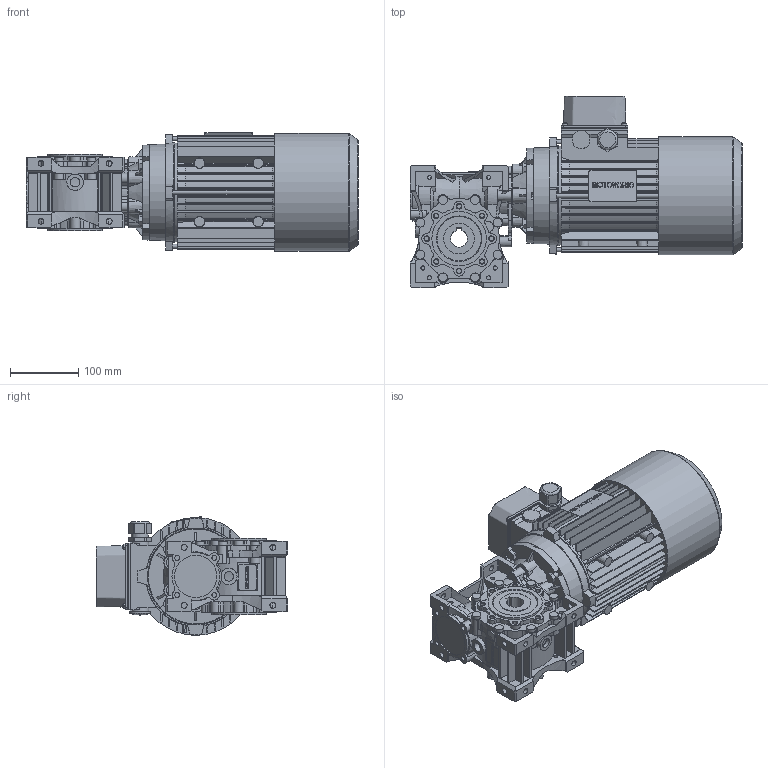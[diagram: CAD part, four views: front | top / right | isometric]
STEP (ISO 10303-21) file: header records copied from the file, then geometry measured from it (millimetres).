
FILE_DESCRIPTION(/* description */ ('STEP AP203'),/* implementation_level */ '2;1');
FILE_NAME(/* name */ 'NMRVP 063 140x24 25 NO NO - - NO - - - NO TP 090L 90L41-(-----IC411NONO------STD)',/* time_stamp */ '2023-05-08T09:27:13+02:00',/* author */ ('License CC BY-ND 4.0'),/* organization */ ('CADENAS'),/* preprocessor_version */ 'ST-DEVELOPER v19.3',/* originating_system */ 'PARTsolutions',/* authorisation */ ' ');
FILE_SCHEMA (('CONFIG_CONTROL_DESIGN','TECHNICAL_DATA_PACKAGING'));
Length unit declared in the file: millimetre
Products named in the file (13): NMRVP 063 140x24 25 NO NO - - NO - - - NO TP 090L 90L41-(-----IC411NO
NO------STD); 63-45; ALBERO_TP090L24X50NO; TIPPO_25; PRESSACAVO_3; COPRIMORSETTIERA_TP090LA002; COP_TP_90L4_IC411_NO_-_-_-_-_STD; CARCASSA_TP90L4090LIC411B1424X50NONO--; FLANGIA_TP090LB14-; 6390 B14; W.063.14.24.M-p; 063-25 (112); W.063.01.M
Assembly tree (12 placements, depth 2):
  NMRVP 063 140x24 25 NO NO - - NO - - - NO TP 090L 90L41-(-----IC411NO
NO------STD)
    63-45
    ALBERO_TP090L24X50NO
    TIPPO_25
    PRESSACAVO_3
    COPRIMORSETTIERA_TP090LA002
    COP_TP_90L4_IC411_NO_-_-_-_-_STD
    CARCASSA_TP90L4090LIC411B1424X50NONO--
    FLANGIA_TP090LB14-
    6390 B14
    W.063.14.24.M-p
    063-25 (112)
    W.063.01.M
Bounding box: 487 x 281.1 x 174.15 mm (x, y, z)
Volume: 8832924.4 mm3; surface area: 839841.3 mm2
Topology: 12 solids, 16 shells, 3389 faces, 9272 edges, 6108 vertices
Faces by surface type: plane 1868, cylinder 1297, cone 213, sphere 5, torus 5, bspline 1
Full cylindrical faces by diameter (mm): 1.8 x1, 2.02 x1, 5.5 x2, 6 x16, 6.647 x17, 7.26 x12, 7.65 x4, 7.8 x1, 8 x12, 8.4 x1, 8.5 x14, 13 x14, 14 x3, 24 x2, 25 x5, 27 x1, 30 x1, 35 x1, 37 x1, 44 x1, 45 x3, 62 x3, 68 x2, 80 x2, 95 x1, 140 x2, 145.5 x2, 172.9 x1
Entity records: 127390 total; most frequent: CARTESIAN_POINT 20330, DIRECTION 18572, ORIENTED_EDGE 18116, EDGE_CURVE 9058, AXIS2_PLACEMENT_3D 6625, VERTEX_POINT 6066, LINE 5322, VECTOR 5322
